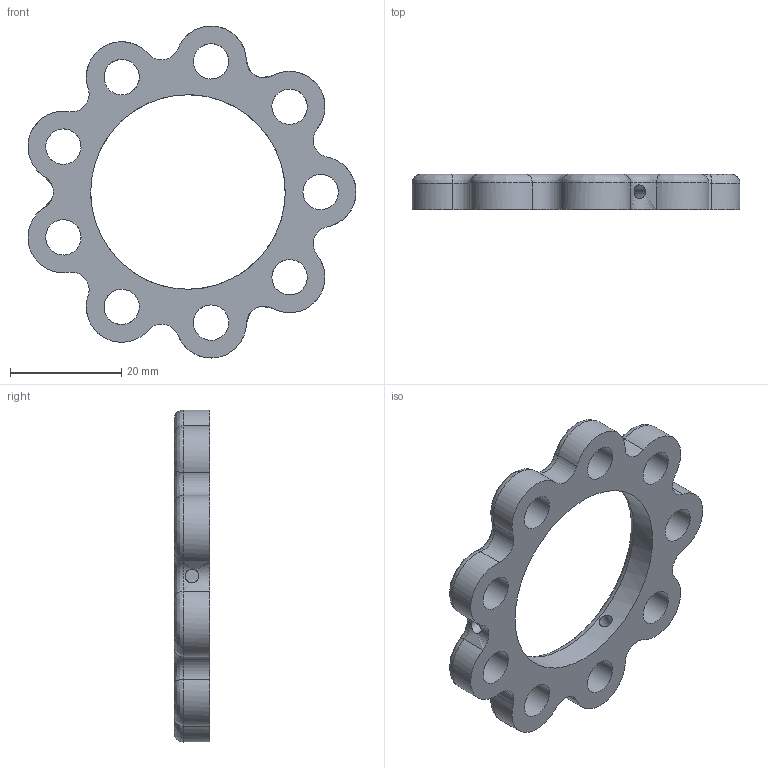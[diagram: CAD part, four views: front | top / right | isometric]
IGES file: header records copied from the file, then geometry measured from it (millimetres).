
Global section: file name: ribbon ring; native system: Autodesk Inventor 2016; preprocessor: unknown; author: Z; date: 20151030.085141; units: inch
Bounding box: 58.88 x 6.35 x 59.6 mm (x, y, z)
Volume: 7028.1 mm3; surface area: 5334 mm2
Topology: 1 solids, 1 shells, 60 faces, 205 edges, 136 vertices
Faces by surface type: bspline 60
